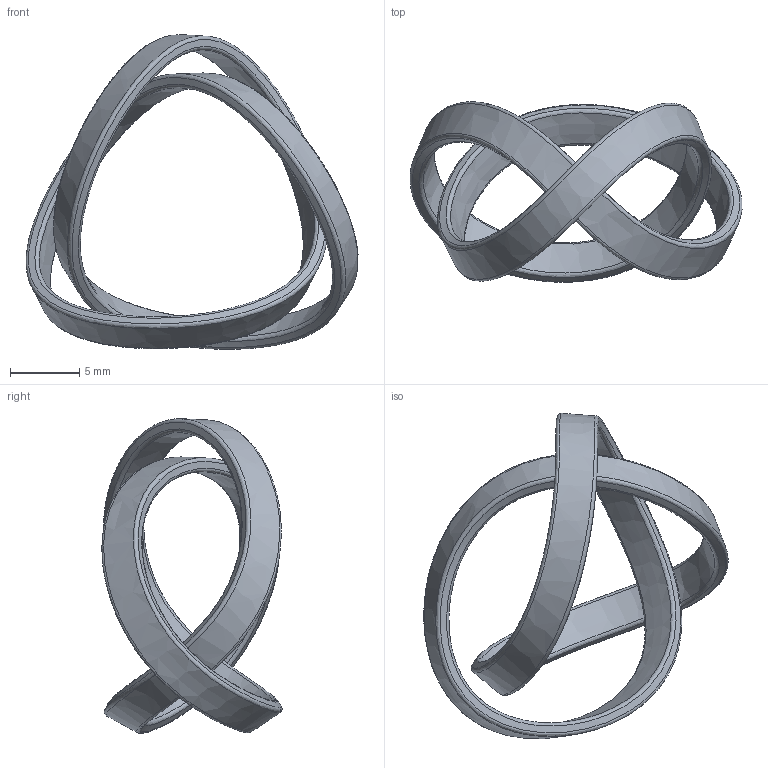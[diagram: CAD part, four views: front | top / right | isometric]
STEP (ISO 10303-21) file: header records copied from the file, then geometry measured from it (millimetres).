
FILE_DESCRIPTION(/* description */ (''),/* implementation_level */ '2;1');
FILE_NAME(/* name */ 'noeud-de-trefle-arrondis.step',/* time_stamp */ '2026-01-12T23:58:09+01:00',/* author */ (''),/* organization */ (''),/* preprocessor_version */ 'ST-DEVELOPER v20.1',/* originating_system */ 'Autodesk Translation Framework v14.21.0.0',/* authorisation */ '');
FILE_SCHEMA (('AUTOMOTIVE_DESIGN { 1 0 10303 214 3 1 1 }'));
Length unit declared in the file: millimetre
Products named in the file (1): noeud-de-trefle-6mm-round
Bounding box: 23.95 x 13 x 22.7 mm (x, y, z)
Surface area: 1079 mm2 (no closed solid volume)
Topology: 0 solids, 1 shells, 8 faces, 24 edges, 16 vertices
Faces by surface type: bspline 8
Entity records: 3906 total; most frequent: CARTESIAN_POINT 3694, ORIENTED_EDGE 48, EDGE_CURVE 24, B_SPLINE_CURVE_WITH_KNOTS 20, VERTEX_POINT 16, DIRECTION 10, FACE_OUTER_BOUND 8, EDGE_LOOP 8
